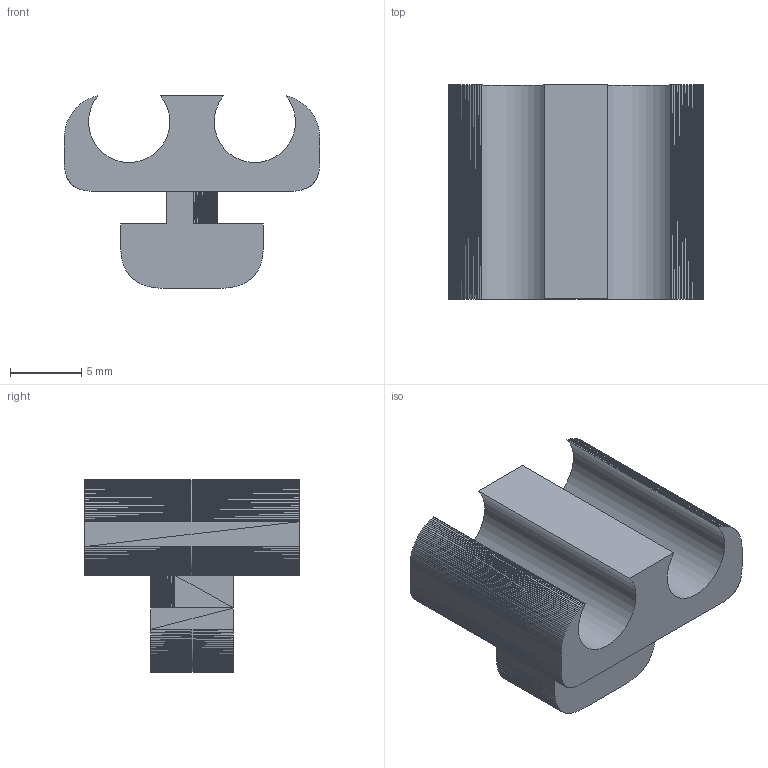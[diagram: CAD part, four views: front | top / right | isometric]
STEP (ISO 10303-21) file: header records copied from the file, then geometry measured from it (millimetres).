
FILE_DESCRIPTION(('Open CASCADE Model'),'2;1');
FILE_NAME('Open CASCADE Shape Model','2026-10-27T16:45:33',('Author'),( 'Open CASCADE'),'Open CASCADE STEP processor 7.9','Open CASCADE 7.9' ,'Unknown');
FILE_SCHEMA(('AUTOMOTIVE_DESIGN { 1 0 10303 214 1 1 1 1 }'));
Length unit declared in the file: millimetre
Products named in the file (1): Open CASCADE STEP translator 7.9 1
Bounding box: 17.91 x 15 x 13.48 mm (x, y, z)
Volume: 1340.1 mm3; surface area: 1314.2 mm2
Topology: 1 solids, 1 shells, 622 faces, 1245 edges, 626 vertices
Faces by surface type: plane 616, bspline 4, cylinder 2
Entity records: 34885 total; most frequent: CARTESIAN_POINT 16117, B_SPLINE_CURVE_WITH_KNOTS 3691, ORIENTED_EDGE 2490, PCURVE 2490, DEFINITIONAL_REPRESENTATION 2490, DIRECTION 1284, EDGE_CURVE 1245, SURFACE_CURVE 1245
